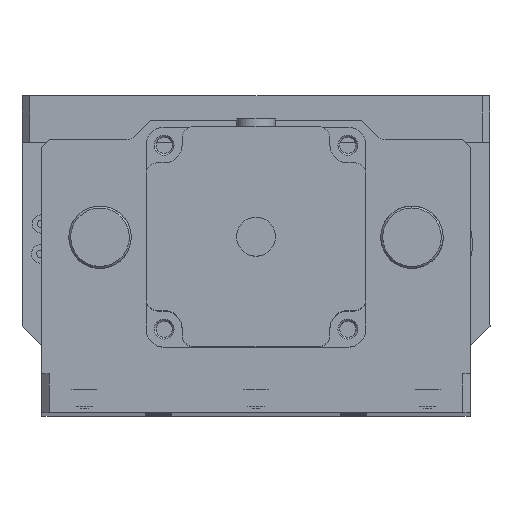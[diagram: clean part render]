
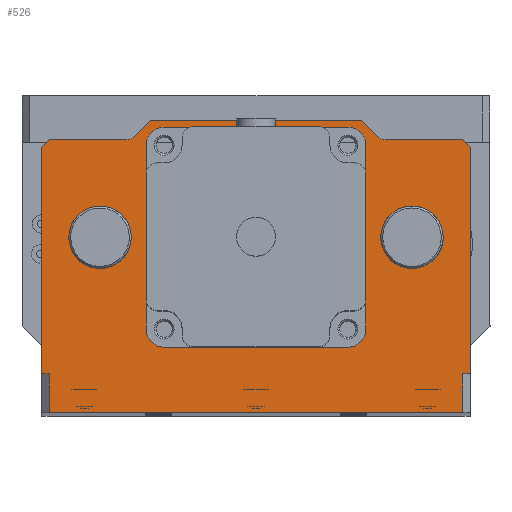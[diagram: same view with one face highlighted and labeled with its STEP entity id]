
A CAD part, top view. The second image highlights one B-rep face of the part: STEP entity #526.
In plain terms, the highlighted planar face has unit normal (0, 0, 1).
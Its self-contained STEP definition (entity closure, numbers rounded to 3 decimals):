
#526=ADVANCED_FACE('',(#14500,#14502,#14504,#14506),#14508,.T.);
#14500=FACE_BOUND('',#14501,.T.);
#14501=EDGE_LOOP('',(#26186,#26187,#26188,#26189,#26190,#26191,#26192,#26193,#26194,
#26195,#26196,#26197,#26198,#26199,#26200,#26201));
#14502=FACE_BOUND('',#14503,.T.);
#14503=EDGE_LOOP('',(#26202,#26203,#26204,#26205,#26206,#26207,#26208,#26209));
#14504=FACE_BOUND('',#14505,.T.);
#14505=EDGE_LOOP('',(#26210));
#14506=FACE_BOUND('',#14507,.T.);
#14507=EDGE_LOOP('',(#26211));
#14508=PLANE('',#14509);
#14509=AXIS2_PLACEMENT_3D('',#14510,#14511,#14512);
#14510=CARTESIAN_POINT('',(-55.,-45.,0.));
#14511=DIRECTION('',(0.,0.,1.));
#14512=DIRECTION('',(1.,0.,0.));
#26186=ORIENTED_EDGE('',*,*,#33207,.F.);
#26187=ORIENTED_EDGE('',*,*,#33176,.T.);
#26188=ORIENTED_EDGE('',*,*,#33209,.T.);
#26189=ORIENTED_EDGE('',*,*,#33210,.T.);
#26190=ORIENTED_EDGE('',*,*,#33087,.T.);
#26191=ORIENTED_EDGE('',*,*,#33211,.F.);
#26192=ORIENTED_EDGE('',*,*,#33212,.T.);
#26193=ORIENTED_EDGE('',*,*,#33213,.F.);
#26194=ORIENTED_EDGE('',*,*,#33214,.T.);
#26195=ORIENTED_EDGE('',*,*,#33215,.T.);
#26196=ORIENTED_EDGE('',*,*,#33216,.T.);
#26197=ORIENTED_EDGE('',*,*,#33217,.F.);
#26198=ORIENTED_EDGE('',*,*,#33218,.T.);
#26199=ORIENTED_EDGE('',*,*,#33219,.F.);
#26200=ORIENTED_EDGE('',*,*,#33048,.T.);
#26201=ORIENTED_EDGE('',*,*,#33208,.T.);
#26202=ORIENTED_EDGE('',*,*,#33220,.F.);
#26203=ORIENTED_EDGE('',*,*,#33221,.F.);
#26204=ORIENTED_EDGE('',*,*,#33222,.F.);
#26205=ORIENTED_EDGE('',*,*,#33223,.F.);
#26206=ORIENTED_EDGE('',*,*,#33224,.F.);
#26207=ORIENTED_EDGE('',*,*,#33225,.F.);
#26208=ORIENTED_EDGE('',*,*,#33226,.F.);
#26209=ORIENTED_EDGE('',*,*,#33227,.F.);
#26210=ORIENTED_EDGE('',*,*,#33228,.T.);
#26211=ORIENTED_EDGE('',*,*,#33229,.T.);
#33048=EDGE_CURVE('',#36369,#36367,#36370,.T.);
#33087=EDGE_CURVE('',#36444,#36442,#36445,.T.);
#33176=EDGE_CURVE('',#36606,#36604,#36607,.T.);
#33207=EDGE_CURVE('',#36606,#36665,#36667,.T.);
#33208=EDGE_CURVE('',#36367,#36665,#36668,.T.);
#33209=EDGE_CURVE('',#36604,#36669,#36670,.T.);
#33210=EDGE_CURVE('',#36669,#36444,#36671,.T.);
#33211=EDGE_CURVE('',#36672,#36442,#36673,.F.);
#33212=EDGE_CURVE('',#36672,#36674,#36675,.F.);
#33213=EDGE_CURVE('',#36676,#36674,#36677,.F.);
#33214=EDGE_CURVE('',#36676,#36678,#36679,.F.);
#33215=EDGE_CURVE('',#36678,#36680,#36681,.T.);
#33216=EDGE_CURVE('',#36680,#36682,#36683,.F.);
#33217=EDGE_CURVE('',#36684,#36682,#36685,.F.);
#33218=EDGE_CURVE('',#36684,#36686,#36687,.F.);
#33219=EDGE_CURVE('',#36369,#36686,#36688,.F.);
#33220=EDGE_CURVE('',#36689,#36690,#36691,.T.);
#33221=EDGE_CURVE('',#36692,#36689,#36693,.T.);
#33222=EDGE_CURVE('',#36694,#36692,#36695,.T.);
#33223=EDGE_CURVE('',#36696,#36694,#36697,.T.);
#33224=EDGE_CURVE('',#36698,#36696,#36699,.T.);
#33225=EDGE_CURVE('',#36700,#36698,#36701,.T.);
#33226=EDGE_CURVE('',#36702,#36700,#36703,.T.);
#33227=EDGE_CURVE('',#36690,#36702,#36704,.T.);
#33228=EDGE_CURVE('',#36705,#36705,#36706,.F.);
#33229=EDGE_CURVE('',#36707,#36707,#36708,.F.);
#36367=VERTEX_POINT('',#42229);
#36369=VERTEX_POINT('',#42233);
#36370=LINE('',#42234,#42235);
#36442=VERTEX_POINT('',#42406);
#36444=VERTEX_POINT('',#42410);
#36445=LINE('',#42411,#42412);
#36604=VERTEX_POINT('',#42971);
#36606=VERTEX_POINT('',#42975);
#36607=LINE('',#42976,#42977);
#36665=VERTEX_POINT('',#43122);
#36667=LINE('',#43126,#43127);
#36668=LINE('',#43129,#43130);
#36669=VERTEX_POINT('',#43132);
#36670=LINE('',#43133,#43134);
#36671=LINE('',#43136,#43137);
#36672=VERTEX_POINT('',#43139);
#36673=LINE('',#43140,#43141);
#36674=VERTEX_POINT('',#43143);
#36675=LINE('',#43144,#43145);
#36676=VERTEX_POINT('',#43147);
#36677=CIRCLE('',#43148,3.);
#36678=VERTEX_POINT('',#43152);
#36679=LINE('',#43153,#43154);
#36680=VERTEX_POINT('',#43156);
#36681=LINE('',#43157,#43158);
#36682=VERTEX_POINT('',#43160);
#36683=LINE('',#43161,#43162);
#36684=VERTEX_POINT('',#43164);
#36685=CIRCLE('',#43165,3.);
#36686=VERTEX_POINT('',#43169);
#36687=LINE('',#43170,#43171);
#36688=LINE('',#43173,#43174);
#36689=VERTEX_POINT('',#43176);
#36690=VERTEX_POINT('',#43177);
#36691=LINE('',#43178,#43179);
#36692=VERTEX_POINT('',#43181);
#36693=CIRCLE('',#43182,4.63);
#36694=VERTEX_POINT('',#43186);
#36695=LINE('',#43187,#43188);
#36696=VERTEX_POINT('',#43190);
#36697=CIRCLE('',#43191,4.63);
#36698=VERTEX_POINT('',#43195);
#36699=LINE('',#43196,#43197);
#36700=VERTEX_POINT('',#43199);
#36701=CIRCLE('',#43200,4.63);
#36702=VERTEX_POINT('',#43204);
#36703=LINE('',#43205,#43206);
#36704=CIRCLE('',#43208,4.63);
#36705=VERTEX_POINT('',#43212);
#36706=CIRCLE('',#43213,8.);
#36707=VERTEX_POINT('',#43217);
#36708=CIRCLE('',#43218,8.);
#42229=CARTESIAN_POINT('',(-55.,-35.,0.));
#42233=CARTESIAN_POINT('',(-55.,23.,0.));
#42234=CARTESIAN_POINT('',(-55.,23.,0.));
#42235=VECTOR('',#42236,1.);
#42236=DIRECTION('',(0.,-1.,0.));
#42406=CARTESIAN_POINT('',(55.,23.,0.));
#42410=CARTESIAN_POINT('',(55.,-35.,0.));
#42411=CARTESIAN_POINT('',(55.,-35.,0.));
#42412=VECTOR('',#42413,1.);
#42413=DIRECTION('',(0.,1.,0.));
#42971=CARTESIAN_POINT('',(53.,-45.,0.));
#42975=CARTESIAN_POINT('',(-53.,-45.,0.));
#42976=CARTESIAN_POINT('',(-53.,-45.,0.));
#42977=VECTOR('',#42978,1.);
#42978=DIRECTION('',(1.,0.,0.));
#43122=CARTESIAN_POINT('',(-53.,-35.,0.));
#43126=CARTESIAN_POINT('',(-53.,-45.,0.));
#43127=VECTOR('',#43128,1.);
#43128=DIRECTION('',(0.,1.,0.));
#43129=CARTESIAN_POINT('',(-55.,-35.,0.));
#43130=VECTOR('',#43131,1.);
#43131=DIRECTION('',(1.,0.,0.));
#43132=CARTESIAN_POINT('',(53.,-35.,0.));
#43133=CARTESIAN_POINT('',(53.,-45.,0.));
#43134=VECTOR('',#43135,1.);
#43135=DIRECTION('',(0.,1.,0.));
#43136=CARTESIAN_POINT('',(53.,-35.,0.));
#43137=VECTOR('',#43138,1.);
#43138=DIRECTION('',(1.,0.,0.));
#43139=CARTESIAN_POINT('',(53.,25.,0.));
#43140=CARTESIAN_POINT('',(55.,23.,0.));
#43141=VECTOR('',#43142,1.);
#43142=DIRECTION('',(-0.707,0.707,0.));
#43143=CARTESIAN_POINT('',(33.243,25.,0.));
#43144=CARTESIAN_POINT('',(33.243,25.,0.));
#43145=VECTOR('',#43146,1.);
#43146=DIRECTION('',(1.,0.,0.));
#43147=CARTESIAN_POINT('',(31.121,25.879,0.));
#43148=AXIS2_PLACEMENT_3D('',#43149,#43150,#43151);
#43149=CARTESIAN_POINT('',(33.243,28.,0.));
#43150=DIRECTION('',(0.,0.,-1.));
#43151=DIRECTION('',(0.,-1.,0.));
#43152=CARTESIAN_POINT('',(27.,30.,0.));
#43153=CARTESIAN_POINT('',(27.,30.,0.));
#43154=VECTOR('',#43155,1.);
#43155=DIRECTION('',(0.707,-0.707,0.));
#43156=CARTESIAN_POINT('',(-27.,30.,0.));
#43157=CARTESIAN_POINT('',(27.,30.,0.));
#43158=VECTOR('',#43159,1.);
#43159=DIRECTION('',(-1.,0.,0.));
#43160=CARTESIAN_POINT('',(-31.121,25.879,0.));
#43161=CARTESIAN_POINT('',(-31.121,25.879,0.));
#43162=VECTOR('',#43163,1.);
#43163=DIRECTION('',(0.707,0.707,0.));
#43164=CARTESIAN_POINT('',(-33.243,25.,0.));
#43165=AXIS2_PLACEMENT_3D('',#43166,#43167,#43168);
#43166=CARTESIAN_POINT('',(-33.243,28.,0.));
#43167=DIRECTION('',(0.,0.,-1.));
#43168=DIRECTION('',(0.707,-0.707,0.));
#43169=CARTESIAN_POINT('',(-53.,25.,0.));
#43170=CARTESIAN_POINT('',(-53.,25.,0.));
#43171=VECTOR('',#43172,1.);
#43172=DIRECTION('',(1.,0.,0.));
#43173=CARTESIAN_POINT('',(-53.,25.,0.));
#43174=VECTOR('',#43175,1.);
#43175=DIRECTION('',(-0.707,-0.707,0.));
#43176=CARTESIAN_POINT('',(23.57,28.2,0.));
#43177=CARTESIAN_POINT('',(-23.57,28.2,0.));
#43178=CARTESIAN_POINT('',(23.57,28.2,0.));
#43179=VECTOR('',#43180,1.);
#43180=DIRECTION('',(-1.,0.,0.));
#43181=CARTESIAN_POINT('',(28.2,23.57,0.));
#43182=AXIS2_PLACEMENT_3D('',#43183,#43184,#43185);
#43183=CARTESIAN_POINT('',(23.57,23.57,0.));
#43184=DIRECTION('',(-0.,0.,1.));
#43185=DIRECTION('',(1.,0.,0.));
#43186=CARTESIAN_POINT('',(28.2,-23.57,0.));
#43187=CARTESIAN_POINT('',(28.2,-23.57,0.));
#43188=VECTOR('',#43189,1.);
#43189=DIRECTION('',(0.,1.,0.));
#43190=CARTESIAN_POINT('',(23.57,-28.2,0.));
#43191=AXIS2_PLACEMENT_3D('',#43192,#43193,#43194);
#43192=CARTESIAN_POINT('',(23.57,-23.57,0.));
#43193=DIRECTION('',(0.,0.,1.));
#43194=DIRECTION('',(0.,-1.,0.));
#43195=CARTESIAN_POINT('',(-23.57,-28.2,0.));
#43196=CARTESIAN_POINT('',(-23.57,-28.2,0.));
#43197=VECTOR('',#43198,1.);
#43198=DIRECTION('',(1.,0.,0.));
#43199=CARTESIAN_POINT('',(-28.2,-23.57,0.));
#43200=AXIS2_PLACEMENT_3D('',#43201,#43202,#43203);
#43201=CARTESIAN_POINT('',(-23.57,-23.57,0.));
#43202=DIRECTION('',(0.,0.,1.));
#43203=DIRECTION('',(-1.,0.,0.));
#43204=CARTESIAN_POINT('',(-28.2,23.57,0.));
#43205=CARTESIAN_POINT('',(-28.2,23.57,0.));
#43206=VECTOR('',#43207,1.);
#43207=DIRECTION('',(0.,-1.,0.));
#43208=AXIS2_PLACEMENT_3D('',#43209,#43210,#43211);
#43209=CARTESIAN_POINT('',(-23.57,23.57,0.));
#43210=DIRECTION('',(0.,0.,1.));
#43211=DIRECTION('',(0.,1.,0.));
#43212=CARTESIAN_POINT('',(-32.,0.,0.));
#43213=AXIS2_PLACEMENT_3D('',#43214,#43215,#43216);
#43214=CARTESIAN_POINT('',(-40.,0.,0.));
#43215=DIRECTION('',(0.,0.,1.));
#43216=DIRECTION('',(1.,0.,0.));
#43217=CARTESIAN_POINT('',(48.,0.,0.));
#43218=AXIS2_PLACEMENT_3D('',#43219,#43220,#43221);
#43219=CARTESIAN_POINT('',(40.,0.,0.));
#43220=DIRECTION('',(0.,0.,1.));
#43221=DIRECTION('',(1.,0.,0.));
